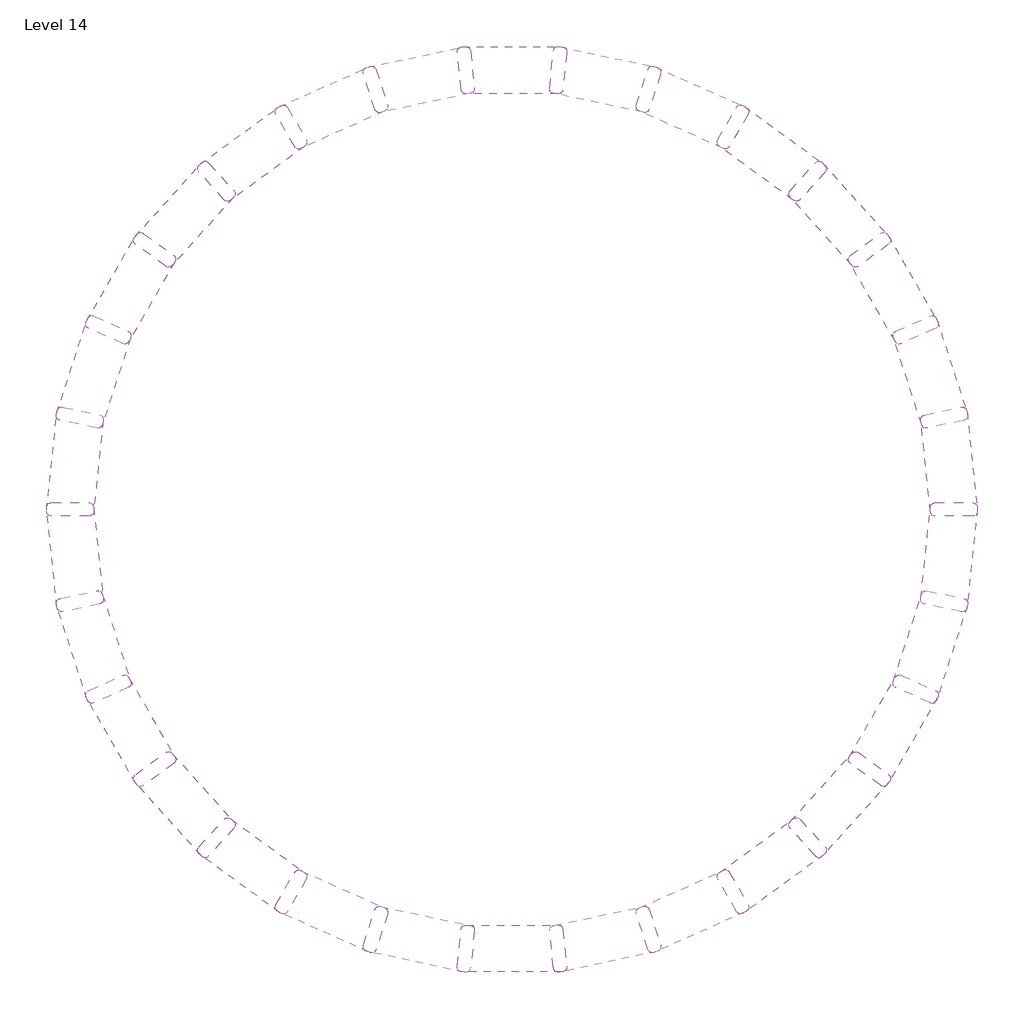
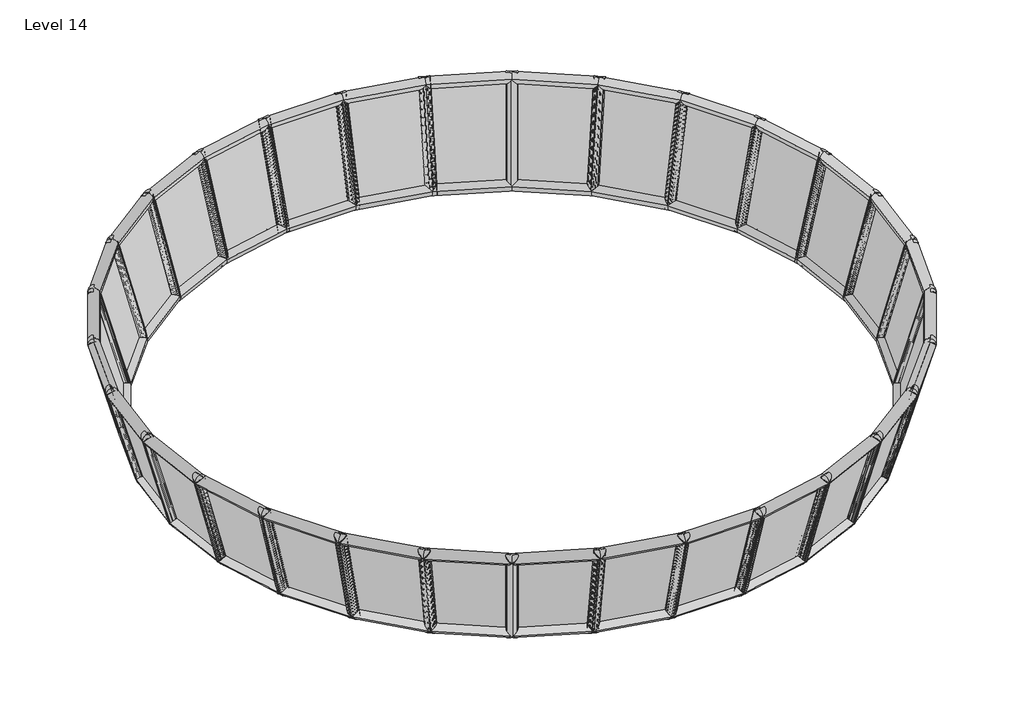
# One storey: 30 plates.
"""IFC4 building model written with IfcOpenShell, lengths in millimetres."""

import ifcopenshell
import ifcopenshell.guid

model = None  # the IFC model being written
_history = None  # IfcOwnerHistory: only IFC2X3 demands one
_inside = {}  # id of a spatial element -> (the spatial element, [elements in it])
_under = {}  # id of a project, library or spatial element -> (it, [spatial elements below it])
_declared = {}  # id of a project -> (the project, [libraries it declares])
_typed = {}  # id of a type object -> (the type object, [elements of that type])
_made_of = {}  # id of a material, layer set ... -> (it, [elements and type objects made of it])


def new_model(schema):
    """Start an empty IFC model of exactly this schema.

    Asked for "IFC4X3", IfcOpenShell would pick the latest addendum, in which some entities
    have other attributes; the version numbers below select the first issue.
    IFC2X3 requires an IfcOwnerHistory on every rooted entity: one is made here for all.
    """
    global model, _history
    if schema == "IFC4X3":
        model = ifcopenshell.file(schema_version=(4, 3, 0, 0))
    else:
        model = ifcopenshell.file(schema=schema)
    _inside.clear()
    _under.clear()
    _declared.clear()
    _typed.clear()
    _made_of.clear()
    _history = None
    if model.schema == "IFC2X3":
        org = make("IfcOrganization", Name="unknown")
        user = make(
            "IfcPersonAndOrganization",
            ThePerson=make("IfcPerson", FamilyName="unknown"),
            TheOrganization=org,
        )
        app = make(
            "IfcApplication",
            ApplicationDeveloper=org,
            Version="unknown",
            ApplicationFullName="unknown",
            ApplicationIdentifier="unknown",
        )
        _history = make(
            "IfcOwnerHistory",
            OwningUser=user,
            OwningApplication=app,
            ChangeAction="ADDED",
            CreationDate=0,
        )
    return model


def make(cls, **values):
    """One entity of the class cls with the attributes given. An attribute that is None is left unset."""
    return model.create_entity(
        cls, **{name: value for name, value in values.items() if value is not None}
    )


def rooted(cls, **values):
    """An entity with a GlobalId (a new one), such as an element, a storey or a relation."""
    return make(cls, GlobalId=ifcopenshell.guid.new(), OwnerHistory=_history, **values)


def si_unit(unit_type, name, prefix=None):
    """IfcSIUnit, for example si_unit("LENGTHUNIT", "METRE", prefix="MILLI")."""
    return make("IfcSIUnit", UnitType=unit_type, Prefix=prefix, Name=name)


def assignment(units):
    """IfcUnitAssignment: the units of a project."""
    return None if units is None else make("IfcUnitAssignment", Units=units)


def point(xyz):
    """IfcCartesianPoint."""
    return None if xyz is None else make("IfcCartesianPoint", Coordinates=xyz)


def direction(xyz):
    """IfcDirection."""
    return None if xyz is None else make("IfcDirection", DirectionRatios=xyz)


def frame(location, z_axis=None, x_axis=None):
    """IfcAxis2Placement3D, a coordinate frame: its origin and axes. An axis left out is left unset."""
    return make(
        "IfcAxis2Placement3D",
        Location=point(location),
        Axis=direction(z_axis),
        RefDirection=direction(x_axis),
    )


def origin():
    """The frame at (0, 0, 0) with its axes left unset."""
    return frame((0.0, 0.0, 0.0))


def origin_with_axes():
    """The frame at (0, 0, 0) with the z axis (0, 0, 1) and the x axis (1, 0, 0) written out."""
    return frame((0.0, 0.0, 0.0), z_axis=(0.0, 0.0, 1.0), x_axis=(1.0, 0.0, 0.0))


def place(relative_to, where):
    """IfcLocalPlacement: puts the frame where relative to a parent placement (None: the world)."""
    return make(
        "IfcLocalPlacement", PlacementRelTo=relative_to, RelativePlacement=where
    )


def context(
    kind, dimensions, precision=None, world=None, true_north=None, identifier=None
):
    """IfcGeometricRepresentationContext, for example the 3D "Model" context."""
    return make(
        "IfcGeometricRepresentationContext",
        ContextIdentifier=identifier,
        ContextType=kind,
        CoordinateSpaceDimension=dimensions,
        Precision=precision,
        WorldCoordinateSystem=world,
        TrueNorth=true_north,
    )


def project(units=None, contexts=None):
    """IfcProject with its units and contexts."""
    return rooted(
        "IfcProject",
        Name="project",
        RepresentationContexts=contexts,
        UnitsInContext=assignment(units),
    )


def spatial(cls, under=None, at=None, **own):
    """A site, building, storey or space (cls), placed at a placement, below another one or the project."""
    s = rooted(cls, ObjectPlacement=at, **own)
    if under is not None:
        _under.setdefault(under.id(), (under, []))[1].append(s)
    return s


def polyline(points):
    """IfcPolyline through the points."""
    return make("IfcPolyline", Points=[point(p) for p in points])


def ellipse_curve(where, semi_axis1, semi_axis2):
    """IfcEllipse in the frame where."""
    return make(
        "IfcEllipse", Position=where, SemiAxis1=semi_axis1, SemiAxis2=semi_axis2
    )


def outline(outer, holes=None, kind="AREA"):
    """IfcArbitraryClosedProfileDef: a profile drawn as a closed curve; with holes, ...WithVoids."""
    if holes is None:
        return make("IfcArbitraryClosedProfileDef", ProfileType=kind, OuterCurve=outer)
    return make(
        "IfcArbitraryProfileDefWithVoids",
        ProfileType=kind,
        OuterCurve=outer,
        InnerCurves=holes,
    )


def extrude(swept, where, along, depth):
    """IfcExtrudedAreaSolid: the profile swept, set in the frame where, extruded along a direction by depth."""
    return make(
        "IfcExtrudedAreaSolid",
        SweptArea=swept,
        Position=where,
        ExtrudedDirection=direction(along),
        Depth=depth,
    )


def shape(context_of_items, identifier, shape_type, items):
    """IfcShapeRepresentation: the items that make up one representation, for example the "Body"."""
    return make(
        "IfcShapeRepresentation",
        ContextOfItems=context_of_items,
        RepresentationIdentifier=identifier,
        RepresentationType=shape_type,
        Items=items,
    )


def source(mapping_origin, context_of_items, identifier, shape_type, items):
    """IfcRepresentationMap: a shape defined once, which mapped items show again and again."""
    return make(
        "IfcRepresentationMap",
        MappingOrigin=mapping_origin,
        MappedRepresentation=shape(context_of_items, identifier, shape_type, items),
    )


def transform(
    local_origin,
    x_axis=None,
    y_axis=None,
    z_axis=None,
    scale=None,
    scale2=None,
    scale3=None,
    uniform=True,
):
    """IfcCartesianTransformationOperator3D, or its non-uniform kind. x_axis, y_axis, z_axis: its Axis1, 2, 3."""
    if uniform:
        return make(
            "IfcCartesianTransformationOperator3D",
            Axis1=direction(x_axis),
            Axis2=direction(y_axis),
            LocalOrigin=point(local_origin),
            Scale=scale,
            Axis3=direction(z_axis),
        )
    return make(
        "IfcCartesianTransformationOperator3DnonUniform",
        Axis1=direction(x_axis),
        Axis2=direction(y_axis),
        LocalOrigin=point(local_origin),
        Scale=scale,
        Axis3=direction(z_axis),
        Scale2=scale2,
        Scale3=scale3,
    )


def mapped(mapping_source, mapping_target):
    """IfcMappedItem: shows the shape of a source again, moved by a transform."""
    return make(
        "IfcMappedItem", MappingSource=mapping_source, MappingTarget=mapping_target
    )


def made_of(thing, what):
    """Note that an element or type object is made of a material, layer set ...; save() writes the relation."""
    if what is not None:
        _made_of.setdefault(what.id(), (what, []))[1].append(thing)
    return thing


def element(
    cls,
    number,
    at=None,
    inside=None,
    cuts=None,
    type_object=None,
    material=None,
    context=None,
    identifier="Body",
    shape_type=None,
    held_by="IfcProductDefinitionShape",
    body=None,
    shapes=None,
    **own,
):
    """One element of the class cls, such as IfcWall. Its Tag is "e" and its number.

    at: its placement. inside: the storey or other place that contains it. cuts: it is an
    opening in that element (IfcRelVoidsElement). A single representation is given by context,
    identifier, shape_type and body (its items); several are given by shapes. held_by: the class
    of the entity that holds the representations. save() writes the other relations.
    """
    e = rooted(cls, Tag="e%d" % number, ObjectPlacement=at, **own)
    if body is not None:
        shapes = [shape(context, identifier, shape_type, body)]
    if shapes is not None:
        e.Representation = make(held_by, Representations=shapes)
    if inside is not None:
        _inside.setdefault(inside.id(), (inside, []))[1].append(e)
    if cuts is not None:
        rooted(
            "IfcRelVoidsElement", RelatingBuildingElement=cuts, RelatedOpeningElement=e
        )
    if type_object is not None:
        _typed.setdefault(type_object.id(), (type_object, []))[1].append(e)
    return made_of(e, material)


def aggregate(whole, parts):
    """IfcRelAggregates: a whole, such as a stair, and the parts it consists of."""
    return rooted("IfcRelAggregates", RelatingObject=whole, RelatedObjects=parts)


def save(model, path):
    """Write the relations noted so far, then the file.

    IfcRelAggregates (storeys below a building ...), IfcRelContainedInSpatialStructure (elements
    in a storey), IfcRelDefinesByType, IfcRelAssociatesMaterial and IfcRelDeclares: one each for
    every whole, place, type object, material and project.
    """
    for whole, parts in _under.values():
        aggregate(whole, parts)
    for where, things in _inside.values():
        rooted(
            "IfcRelContainedInSpatialStructure",
            RelatedElements=things,
            RelatingStructure=where,
        )
    for kind, things in _typed.values():
        rooted("IfcRelDefinesByType", RelatedObjects=things, RelatingType=kind)
    for what, things in _made_of.values():
        rooted("IfcRelAssociatesMaterial", RelatedObjects=things, RelatingMaterial=what)
    for by, libraries in _declared.values():
        rooted("IfcRelDeclares", RelatingContext=by, RelatedDefinitions=libraries)
    model.write(path)


def cylinder_surface(at, radius):
    """IfcCylindricalSurface: all points at the distance radius from the z axis of the frame at."""
    return make("IfcCylindricalSurface", Position=at, Radius=radius)


def advanced_brep(points, edges, surfaces, faces):
    """IfcAdvancedBrep: a solid bounded by faces that lie on surfaces and meet in shared edges.

    An edge is (start, end): straight between two places in points (the first is 0);
    or (start, end, curve); or (start, end, curve, False) where it runs against its curve.
    A face is (place in surfaces, loops), or (place, loops, False) where it looks against
    its surface's normal. A loop lists edges by number (the first is 1), with a minus sign
    where the edge is run from its end to its start. The first loop is the outer one.
    """
    corners = [point(p) for p in points]
    vertices = [make("IfcVertexPoint", VertexGeometry=c) for c in corners]
    made = []
    for start, end, *more in edges:
        made.append(
            make(
                "IfcEdgeCurve",
                EdgeStart=vertices[start],
                EdgeEnd=vertices[end],
                EdgeGeometry=more[0] if more else make("IfcPolyline", Points=[corners[start], corners[end]]),
                SameSense=more[1] if len(more) > 1 else True,
            )
        )
    hull = []
    for where, loops, *sense in faces:
        bounds = []
        for j, loop in enumerate(loops):
            ring = [make("IfcOrientedEdge", EdgeElement=made[abs(k) - 1], Orientation=k > 0) for k in loop]
            bounds.append(
                make(
                    "IfcFaceOuterBound" if j == 0 else "IfcFaceBound",
                    Bound=make("IfcEdgeLoop", EdgeList=ring),
                    Orientation=True,
                )
            )
        hull.append(make("IfcAdvancedFace", Bounds=bounds, FaceSurface=surfaces[where], SameSense=sense[0] if sense else True))
    return make("IfcAdvancedBrep", Outer=make("IfcClosedShell", CfsFaces=hull))


def curtainpanel_curtainpanel_3dfde4fb(model_context):
    return source(origin(), model_context, "Body", "SolidModel", [
        extrude(outline(polyline([(2759.2820077, 2759.2820077), (3388.2731669, 6768.2195377), (6270.6807461, 6399.3131084), (5869.7640793, 2361.1853462), (2759.2820077, 2759.2820077)])), origin_with_axes(), (0.0, 0.0, 1.0), 20.0),
        advanced_brep(
        [(2759.2820077, 2759.2820077, -220.0), (2759.2820077, 2759.2820077, 220.0), (5869.7640793, 2361.1853462, 220.0), (5869.7640793, 2361.1853462, -220.0), (6270.6807461, 6399.3131084, 220.0), (6270.6807461, 6399.3131084, -220.0), (3388.2731669, 6768.2195377, 220.0), (3388.2731669, 6768.2195377, -220.0)],
        [
            (0, 1, ellipse_curve(frame((2759.2820077, 2759.2820077, 0.0), z_axis=(0.6003487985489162, -0.7997382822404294, 0.0), x_axis=(-0.7997382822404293, -0.6003487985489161, 0.0)), 315.6301979, 220.0)),
            (1, 2),
            (2, 3, ellipse_curve(frame((5869.7640793, 2361.1853462, 0.0), z_axis=(-0.7824086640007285, -0.622765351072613, 0.0), x_axis=(-0.6227653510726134, 0.7824086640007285, 0.0)), 315.6301979, 220.0)),
            (3, 0),
            (1, 0, ellipse_curve(frame((2759.2820077, 2759.2820077, 0.0), z_axis=(0.6003487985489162, -0.7997382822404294, 0.0), x_axis=(-0.7997382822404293, -0.6003487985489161, 0.0)), 315.6301979, 220.0)),
            (3, 2, ellipse_curve(frame((5869.7640793, 2361.1853462, 0.0), z_axis=(-0.7824086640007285, -0.622765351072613, 0.0), x_axis=(-0.6227653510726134, 0.7824086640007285, 0.0)), 315.6301979, 220.0)),
            (2, 4),
            (4, 5, ellipse_curve(frame((6270.6807461, 6399.3131084, 0.0), z_axis=(0.622765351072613, -0.7824086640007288, 0.0), x_axis=(-0.782408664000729, -0.6227653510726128, 0.0)), 306.8111753, 220.0)),
            (5, 3),
            (5, 4, ellipse_curve(frame((6270.6807461, 6399.3131084, 0.0), z_axis=(0.622765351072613, -0.7824086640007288, 0.0), x_axis=(-0.782408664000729, -0.6227653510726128, 0.0)), 306.8111753, 220.0)),
            (4, 6),
            (6, 7, ellipse_curve(frame((3388.2731669, 6768.2195377, 0.0), z_axis=(0.7997382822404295, 0.600348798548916, 0.0), x_axis=(0.6003487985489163, -0.7997382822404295, 0.0)), 306.8111753, 220.0)),
            (7, 5),
            (7, 6, ellipse_curve(frame((3388.2731669, 6768.2195377, 0.0), z_axis=(0.7997382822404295, 0.600348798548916, 0.0), x_axis=(0.6003487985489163, -0.7997382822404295, 0.0)), 306.8111753, 220.0)),
            (6, 1),
            (0, 7),
        ],
        [
            cylinder_surface(frame((2759.2820077, 2759.2820077, 0.0), z_axis=(-0.9919091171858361, 0.12695000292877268, 0.0), x_axis=(0.12695000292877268, 0.9919091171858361, 0.0)), 220.0),
            cylinder_surface(frame((5869.7640793, 2361.1853462, 0.0), z_axis=(-0.09879707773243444, -0.9951076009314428, 0.0), x_axis=(-0.9951076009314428, 0.09879707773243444, 0.0)), 220.0),
            cylinder_surface(frame((6270.6807461, 6399.3131084, 0.0), z_axis=(0.9919091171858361, -0.12695000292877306, 0.0), x_axis=(-0.12695000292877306, -0.9919091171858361, 0.0)), 220.0),
            cylinder_surface(frame((3388.2731669, 6768.2195377, 0.0), z_axis=(0.1550010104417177, 0.9879143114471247, 0.0), x_axis=(0.9879143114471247, -0.1550010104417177, 0.0)), 220.0),
        ],
        [
            (0, [[1, 2, 3, 4]]),
            (0, [[5, -4, 6, -2]]),
            (1, [[-3, 7, 8, 9]]),
            (1, [[-6, -9, 10, -7]]),
            (2, [[-8, 11, 12, 13]]),
            (2, [[-10, -13, 14, -11]]),
            (3, [[-12, 15, -1, 16]]),
            (3, [[-14, -16, -5, -15]]),
        ],
    ),
    ])


model = new_model("IFC4")

# Units and contexts
model_context = context("Model", 3, world=origin())
ifc_project = project(units=[si_unit("LENGTHUNIT", "METRE", prefix="MILLI")], contexts=[model_context])

# Site, building, storey
site = spatial("IfcSite", under=ifc_project)
building = spatial("IfcBuilding", under=site)
storey = spatial("IfcBuildingStorey", under=building, Name="Level 14", Elevation=52000.0)

# Plates
placement = place(None, origin())
curtainpanel_curtainpanel_shape = curtainpanel_curtainpanel_3dfde4fb(model_context)
element("IfcPlate", 1, ObjectType="CurtainPanel : CurtainPanel", at=placement, inside=storey, context=model_context, shape_type="MappedRepresentation", body=[
    mapped(curtainpanel_curtainpanel_shape, transform((15766.3214891, -2568.2195287, 62972.8812778), x_axis=(-0.13772873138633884, 0.982896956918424, -0.12224716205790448), y_axis=(-0.25274454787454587, -0.15421380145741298, -0.9551640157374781), z_axis=(-0.9576800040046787, -0.10065622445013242, 0.26966151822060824))),
])
element("IfcPlate", 2, ObjectType="CurtainPanel : CurtainPanel", at=placement, inside=storey, context=model_context, shape_type="MappedRepresentation", body=[
    mapped(curtainpanel_curtainpanel_shape, transform((15890.3959025, 824.4323249, 62972.8812778), x_axis=(-0.3390747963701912, 0.932782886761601, -0.12224716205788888), y_axis=(-0.21515862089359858, -0.20339240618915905, -0.9551640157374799), z_axis=(-0.91582479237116, -0.29756951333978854, 0.2696615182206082))),
])
element("IfcPlate", 3, ObjectType="CurtainPanel : CurtainPanel", at=placement, inside=storey, context=model_context, shape_type="MappedRepresentation", body=[
    mapped(curtainpanel_curtainpanel_shape, transform((15306.387009, 4168.7431167, 62972.8812778), x_axis=(-0.5256016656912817, 0.8419017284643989, -0.12224716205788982), y_axis=(-0.16816922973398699, -0.24368178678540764, -0.9551640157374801), z_axis=(-0.8339436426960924, -0.48147758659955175, 0.2696615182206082))),
])
element("IfcPlate", 4, ObjectType="CurtainPanel : CurtainPanel", at=placement, inside=storey, context=model_context, shape_type="MappedRepresentation", body=[
    mapped(curtainpanel_curtainpanel_shape, transform((14039.8187997, 7318.5504173, 62972.8812778), x_axis=(-0.6891572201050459, 0.7142254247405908, -0.12224716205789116), y_axis=(-0.11383003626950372, -0.27332110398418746, -0.9551640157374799), z_axis=(-0.7156151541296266, -0.6443427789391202, 0.26966151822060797))),
])
element("IfcPlate", 5, ObjectType="CurtainPanel : CurtainPanel", at=placement, inside=storey, context=model_context, shape_type="MappedRepresentation", body=[
    mapped(curtainpanel_curtainpanel_shape, transform((12146.046383, 10136.1925332, 62972.8812778), x_axis=(-0.822593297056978, 0.5553340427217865, -0.12224716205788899), y_axis=(-0.054515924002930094, -0.2910149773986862, -0.9551640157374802), z_axis=(-0.5660108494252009, -0.779047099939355, 0.26966151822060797))),
])
element("IfcPlate", 6, ObjectType="CurtainPanel : CurtainPanel", at=placement, inside=storey, context=model_context, shape_type="MappedRepresentation", body=[
    mapped(curtainpanel_curtainpanel_shape, transform((9707.8367009, 12498.5249834, 62972.8812778), x_axis=(-0.9200780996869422, 0.3721718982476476, -0.1222471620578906), y_axis=(0.007180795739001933, -0.29599009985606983, -0.9551640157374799), z_axis=(-0.3916691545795, -0.8797033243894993, 0.269661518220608))),
])
element("IfcPlate", 7, ObjectType="CurtainPanel : CurtainPanel", at=placement, inside=storey, context=model_context, shape_type="MappedRepresentation", body=[
    mapped(curtainpanel_curtainpanel_shape, transform((6831.7512161, 14302.3025042, 62972.8812778), x_axis=(-0.977351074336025, 0.17274405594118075, -0.12224716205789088), y_axis=(0.0685636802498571, -0.28802903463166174, -0.9551640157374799), z_axis=(-0.20020963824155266, -0.9419122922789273, 0.2696615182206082))),
])
element("IfcPlate", 8, ObjectType="CurtainPanel : CurtainPanel", at=placement, inside=storey, context=model_context, shape_type="MappedRepresentation", body=[
    mapped(curtainpanel_curtainpanel_shape, transform((3643.4886656, 15468.6913623, 62972.8812778), x_axis=(-0.9919091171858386, -0.03423353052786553, -0.12224716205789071), y_axis=(0.12695000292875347, -0.267479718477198, -0.9551640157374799), z_axis=(0.0, -0.9629551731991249, 0.2696615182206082))),
])
element("IfcPlate", 9, ObjectType="CurtainPanel : CurtainPanel", at=placement, inside=storey, context=model_context, shape_type="MappedRepresentation", body=[
    mapped(curtainpanel_curtainpanel_shape, transform((282.3914216, 15946.7147677, 62972.8812778), x_axis=(-0.963115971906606, -0.23971494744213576, -0.12224716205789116), y_axis=(0.17978800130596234, -0.2352402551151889, -0.9551640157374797), z_axis=(0.20020963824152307, -0.9419122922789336, 0.2696615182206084))),
])
element("IfcPlate", 10, ObjectType="CurtainPanel : CurtainPanel", at=placement, inside=storey, context=model_context, shape_type="MappedRepresentation", body=[
    mapped(curtainpanel_curtainpanel_shape, transform((-3104.6444379, 15715.4808038, 62972.8812778), x_axis=(-0.892230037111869, -0.4347196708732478, -0.12224716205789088), y_axis=(0.2247684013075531, -0.1927196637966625, -0.9551640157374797), z_axis=(0.39166915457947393, -0.8797033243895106, 0.26966151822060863))),
])
element("IfcPlate", 11, ObjectType="CurtainPanel : CurtainPanel", at=placement, inside=storey, context=model_context, shape_type="MappedRepresentation", body=[
    mapped(curtainpanel_curtainpanel_shape, transform((-6369.5891931, 14785.0955044, 62972.8812778), x_axis=(-0.7823493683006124, -0.6107250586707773, -0.12224716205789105), y_axis=(0.2599253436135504, -0.14177629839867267, -0.9551640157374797), z_axis=(0.5660108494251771, -0.7790470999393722, 0.2696615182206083))),
])
element("IfcPlate", 12, ObjectType="CurtainPanel : CurtainPanel", at=placement, inside=storey, context=model_context, shape_type="MappedRepresentation", body=[
    mapped(curtainpanel_curtainpanel_shape, transform((-9369.7490912, 13196.2211715, 62972.8812778), x_axis=(-0.6382762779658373, -0.7600388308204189, -0.12224716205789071), y_axis=(0.2837223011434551, -0.08463662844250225, -0.9551640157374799), z_axis=(0.7156151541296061, -0.6443427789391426, 0.2696615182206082))),
])
element("IfcPlate", 13, ObjectType="CurtainPanel : CurtainPanel", at=placement, inside=storey, context=model_context, shape_type="MappedRepresentation", body=[
    mapped(curtainpanel_curtainpanel_shape, transform((-11974.0027483, 11018.2992379, 62972.8812778), x_axis=(-0.46630745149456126, -0.8761352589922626, -0.1222471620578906), y_axis=(0.29511923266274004, -0.02379793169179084, -0.9551640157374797), z_axis=(0.8339436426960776, -0.48147758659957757, 0.26966151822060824))),
])
element("IfcPlate", 14, ObjectType="CurtainPanel : CurtainPanel", at=placement, inside=storey, context=model_context, shape_type="MappedRepresentation", body=[
    mapped(curtainpanel_curtainpanel_shape, transform((-14068.531783, 8346.5153427, 62972.8812778), x_axis=(-0.2739587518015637, -0.9539403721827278, -0.12224716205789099), y_axis=(0.29361803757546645, 0.03808084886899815, -0.9551640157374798), z_axis=(0.9158247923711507, -0.29756951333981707, 0.26966151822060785))),
])
element("IfcPlate", 15, ObjectType="CurtainPanel : CurtainPanel", at=placement, inside=storey, context=model_context, shape_type="MappedRepresentation", body=[
    mapped(curtainpanel_curtainpanel_shape, transform((-15561.7952258, 5297.6392629, 62972.8812778), x_axis=(-0.06963674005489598, -0.9900537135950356, -0.12224716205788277), y_axis=(0.2792843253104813, 0.09829531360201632, -0.9551640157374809), z_axis=(0.957680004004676, -0.10065622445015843, 0.2696615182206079))),
])
element("IfcPlate", 16, ObjectType="CurtainPanel : CurtainPanel", at=placement, inside=storey, context=model_context, shape_type="MappedRepresentation", body=[
    mapped(curtainpanel_curtainpanel_shape, transform((-16388.5302988, 2004.9215132, 62972.8812778), x_axis=(0.13772873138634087, -0.9828969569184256, -0.12224716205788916), y_axis=(0.25274454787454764, 0.15421380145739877, -0.9551640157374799), z_axis=(0.9576800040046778, 0.10065622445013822, 0.26966151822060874))),
])
element("IfcPlate", 17, ObjectType="CurtainPanel : CurtainPanel", at=placement, inside=storey, context=model_context, shape_type="MappedRepresentation", body=[
    mapped(curtainpanel_curtainpanel_shape, transform((-16512.6047121, -1387.7303403, 62972.8812778), x_axis=(0.33907479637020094, -0.9327828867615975, -0.1222471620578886), y_axis=(0.2151586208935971, 0.20339240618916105, -0.9551640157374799), z_axis=(0.9158247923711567, 0.297569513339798, 0.2696615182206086))),
])
element("IfcPlate", 18, ObjectType="CurtainPanel : CurtainPanel", at=placement, inside=storey, context=model_context, shape_type="MappedRepresentation", body=[
    mapped(curtainpanel_curtainpanel_shape, transform((-15928.5958187, -4732.0411321, 62972.8812778), x_axis=(0.5256016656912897, -0.8419017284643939, -0.12224716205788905), y_axis=(0.1681692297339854, 0.2436817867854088, -0.9551640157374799), z_axis=(0.8339436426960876, 0.48147758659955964, 0.2696615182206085))),
])
element("IfcPlate", 19, ObjectType="CurtainPanel : CurtainPanel", at=placement, inside=storey, context=model_context, shape_type="MappedRepresentation", body=[
    mapped(curtainpanel_curtainpanel_shape, transform((-14662.0276094, -7881.8484327, 62972.8812778), x_axis=(0.6891572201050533, -0.7142254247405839, -0.12224716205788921), y_axis=(0.11383003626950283, 0.27332110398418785, -0.9551640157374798), z_axis=(0.7156151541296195, 0.6443427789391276, 0.26966151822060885))),
])
element("IfcPlate", 20, ObjectType="CurtainPanel : CurtainPanel", at=placement, inside=storey, context=model_context, shape_type="MappedRepresentation", body=[
    mapped(curtainpanel_curtainpanel_shape, transform((-12768.2551927, -10699.4905486, 62972.8812778), x_axis=(0.822593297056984, -0.5553340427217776, -0.12224716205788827), y_axis=(0.05451592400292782, 0.29101497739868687, -0.9551640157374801), z_axis=(0.5660108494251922, 0.779047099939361, 0.2696615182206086))),
])
element("IfcPlate", 21, ObjectType="CurtainPanel : CurtainPanel", at=placement, inside=storey, context=model_context, shape_type="MappedRepresentation", body=[
    mapped(curtainpanel_curtainpanel_shape, transform((-10330.0455105, -13061.8229989, 62972.8812778), x_axis=(0.9200780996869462, -0.3721718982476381, -0.12224716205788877), y_axis=(-0.007180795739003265, 0.2959900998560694, -0.95516401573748), z_axis=(0.39166915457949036, 0.8797033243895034, 0.26966151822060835))),
])
element("IfcPlate", 22, ObjectType="CurtainPanel : CurtainPanel", at=placement, inside=storey, context=model_context, shape_type="MappedRepresentation", body=[
    mapped(curtainpanel_curtainpanel_shape, transform((-7453.9600258, -14865.6005196, 62972.8812778), x_axis=(0.9773510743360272, -0.1727440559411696, -0.12224716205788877), y_axis=(-0.06856368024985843, 0.28802903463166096, -0.95516401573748), z_axis=(0.2002096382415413, 0.9419122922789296, 0.26966151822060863))),
])
element("IfcPlate", 23, ObjectType="CurtainPanel : CurtainPanel", at=placement, inside=storey, context=model_context, shape_type="MappedRepresentation", body=[
    mapped(curtainpanel_curtainpanel_shape, transform((-4265.6974752, -16031.9893777, 62972.8812778), x_axis=(0.9919091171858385, 0.03423353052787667, -0.12224716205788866), y_axis=(-0.12695000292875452, 0.2674797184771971, -0.9551640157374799), z_axis=(0.0, 0.9629551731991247, 0.26966151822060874))),
])
element("IfcPlate", 24, ObjectType="CurtainPanel : CurtainPanel", at=placement, inside=storey, context=model_context, shape_type="MappedRepresentation", body=[
    mapped(curtainpanel_curtainpanel_shape, transform((-904.6002312, -16510.0127831, 62972.8812778), x_axis=(0.9631159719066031, 0.23971494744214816, -0.12224716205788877), y_axis=(-0.17978800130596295, 0.23524025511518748, -0.95516401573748), z_axis=(-0.20020963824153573, 0.9419122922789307, 0.26966151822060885))),
])
element("IfcPlate", 25, ObjectType="CurtainPanel : CurtainPanel", at=placement, inside=storey, context=model_context, shape_type="MappedRepresentation", body=[
    mapped(curtainpanel_curtainpanel_shape, transform((2482.4356283, -16278.7788192, 62972.8812778), x_axis=(0.8922300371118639, 0.4347196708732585, -0.12224716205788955), y_axis=(-0.22476840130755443, 0.19271966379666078, -0.9551640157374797), z_axis=(-0.39166915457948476, 0.8797033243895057, 0.2696615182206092))),
])
element("IfcPlate", 26, ObjectType="CurtainPanel : CurtainPanel", at=placement, inside=storey, context=model_context, shape_type="MappedRepresentation", body=[
    mapped(curtainpanel_curtainpanel_shape, transform((5747.3803835, -15348.3935198, 62972.8812778), x_axis=(0.7823493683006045, 0.610725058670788, -0.12224716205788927), y_axis=(-0.259925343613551, 0.1417762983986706, -0.9551640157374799), z_axis=(-0.5660108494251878, 0.7790470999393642, 0.2696615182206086))),
])
element("IfcPlate", 27, ObjectType="CurtainPanel : CurtainPanel", at=placement, inside=storey, context=model_context, shape_type="MappedRepresentation", body=[
    mapped(curtainpanel_curtainpanel_shape, transform((8747.5402816, -13759.519187, 62972.8812778), x_axis=(0.6382762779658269, 0.7600388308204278, -0.12224716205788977), y_axis=(-0.28372230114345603, 0.08463662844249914, -0.9551640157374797), z_axis=(-0.7156151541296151, 0.6443427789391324, 0.2696615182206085))),
])
element("IfcPlate", 28, ObjectType="CurtainPanel : CurtainPanel", at=placement, inside=storey, context=model_context, shape_type="MappedRepresentation", body=[
    mapped(curtainpanel_curtainpanel_shape, transform((11351.7939387, -11581.5972533, 62972.8812778), x_axis=(0.4663074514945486, 0.8761352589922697, -0.1222471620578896), y_axis=(-0.29511923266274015, 0.023797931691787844, -0.9551640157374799), z_axis=(-0.8339436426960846, 0.48147758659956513, 0.26966151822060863))),
])
element("IfcPlate", 29, ObjectType="CurtainPanel : CurtainPanel", at=placement, inside=storey, context=model_context, shape_type="MappedRepresentation", body=[
    mapped(curtainpanel_curtainpanel_shape, transform((13446.3229734, -8909.8133581, 62972.8812778), x_axis=(0.2739587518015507, 0.9539403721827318, -0.12224716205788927), y_axis=(-0.293618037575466, -0.038080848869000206, -0.9551640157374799), z_axis=(-0.9158247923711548, 0.29756951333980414, 0.2696615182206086))),
])
element("IfcPlate", 30, ObjectType="CurtainPanel : CurtainPanel", at=placement, inside=storey, context=model_context, shape_type="MappedRepresentation", body=[
    mapped(curtainpanel_curtainpanel_shape, transform((14939.5864162, -5860.9372783, 62972.8812778), x_axis=(0.06963674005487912, 0.9900537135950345, -0.12224716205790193), y_axis=(-0.2792843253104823, -0.0982953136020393, -0.9551640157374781), z_axis=(-0.9576800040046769, 0.10065622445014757, 0.26966151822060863))),
])

save(model, "model.ifc")
